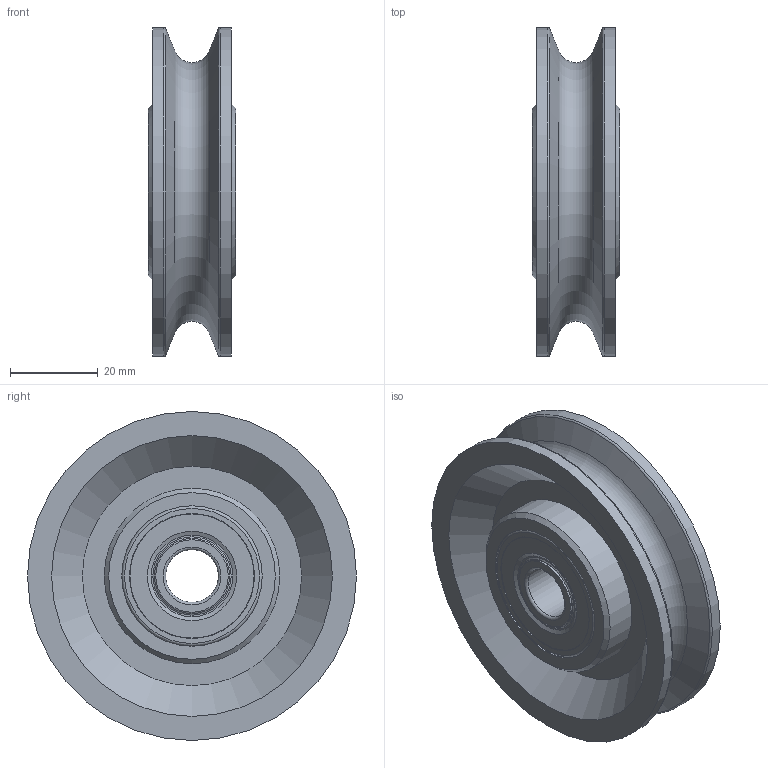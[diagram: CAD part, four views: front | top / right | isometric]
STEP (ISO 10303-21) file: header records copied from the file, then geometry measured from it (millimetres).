
FILE_DESCRIPTION(/* description */ ('Seilrolle ø75 VA Kugellager komplett'),/* implementation_level */ '2;1');
FILE_NAME(/* name */ 'Z:\Workspace\03 Seilrollen\1.502 Seilrollen VA Kugellager\1.502.02 Seilrolle ø75 VA Kugellager\1.502.02 Seilrolle ø75 VA Kugellager komplett.stp',/* time_stamp */ '2021-10-28T14:09:55+02:00',/* author */ ('cad-user'),/* organization */ (''),/* preprocessor_version */ 'ST-DEVELOPER v18',/* originating_system */ 'Autodesk Inventor 2020',/* authorisation */ '');
FILE_SCHEMA (('AUTOMOTIVE_DESIGN { 1 0 10303 214 3 1 1 }'));
Length unit declared in the file: millimetre
Products named in the file (8): 1.502.02 Seilrolle ø75 VA Kugellager komplett; 1.502.02 Seilrolle ø75 VA Kugellager; S62012RS; snr_s62012rs_1_05; snr_s62012rs_1_04; snr_s62012rs_1_03; snr_s62012rs_1_02; snr_s62012rs_1_01
Assembly tree (8 placements, depth 3):
  1.502.02 Seilrolle ø75 VA Kugellager komplett
    1.502.02 Seilrolle ø75 VA Kugellager
    S62012RS  x2
      snr_s62012rs_1_05
      snr_s62012rs_1_04
      snr_s62012rs_1_03
      snr_s62012rs_1_02
      snr_s62012rs_1_01
Bounding box: 20 x 75 x 75 mm (x, y, z)
Volume: 42774.6 mm3; surface area: 30647.3 mm2
Topology: 11 solids, 11 shells, 136 faces, 410 edges, 312 vertices
Faces by surface type: plane 38, cone 34, cylinder 29, torus 27, sphere 8
Full cylindrical faces by diameter (mm): 12 x2, 16.5 x4, 17.113 x4, 20.333 x4, 23.667 x4, 28.308 x4, 32 x3, 40 x2, 75 x2
Entity records: 3399 total; most frequent: CARTESIAN_POINT 770, DIRECTION 571, ORIENTED_EDGE 452, AXIS2_PLACEMENT_3D 267, EDGE_CURVE 226, VERTEX_POINT 178, CIRCLE 173, EDGE_LOOP 108
